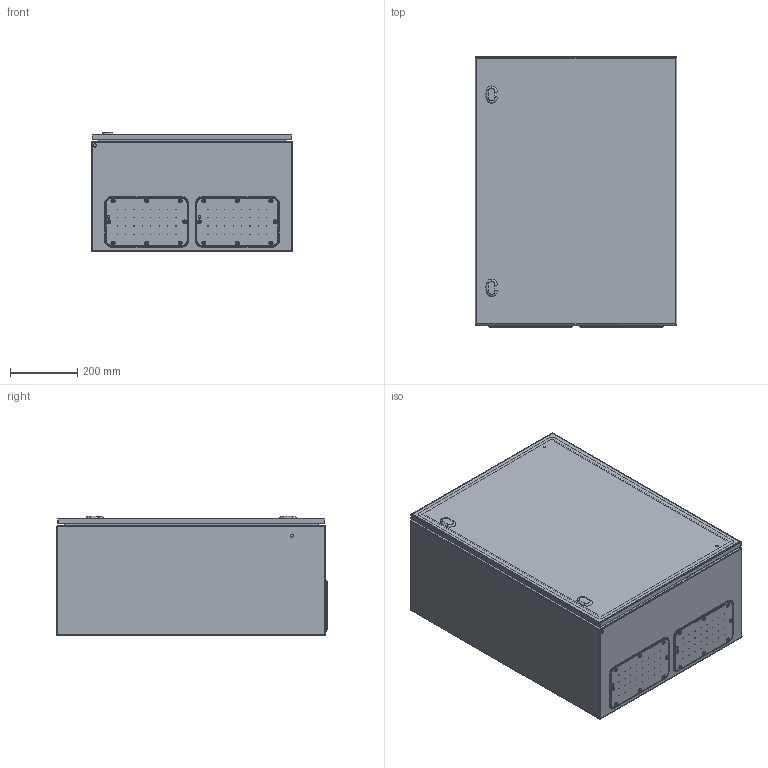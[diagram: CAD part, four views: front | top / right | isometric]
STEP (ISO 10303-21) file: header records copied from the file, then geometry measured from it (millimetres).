
FILE_DESCRIPTION (( 'STEP AP203' ), '1' );
FILE_NAME ('0600x0800x0350 dx.step', '2021-09-07T06:41:53', ( '' ), ( '' ), 'SwSTEP 2.0', 'SolidWorks 2021', '' );
FILE_SCHEMA (( 'CONFIG_CONTROL_DESIGN' ));
Length unit declared in the file: millimetre
Products named in the file (7): AR_ECOR_montaggio_porta_singola_0600x0800; AR_ECOR_flangia IC_03; AR_ECOR_porta_singola_0600x0800; AR_ECOR_Piastra_17; AR_ECOR_chiusura_std_STD; AR_ECOR_involucro_0600x0800x0350; 0600x0800x0350 dx
Assembly tree (8 placements, depth 3):
  0600x0800x0350 dx
    AR_ECOR_involucro_0600x0800x0350
    AR_ECOR_montaggio_porta_singola_0600x0800
      AR_ECOR_porta_singola_0600x0800
      AR_ECOR_chiusura_std_STD  x2
    AR_ECOR_flangia IC_03  x2
    AR_ECOR_Piastra_17
Bounding box: 600 x 804 x 355 mm (x, y, z)
Volume: 4193511.1 mm3; surface area: 5048316.3 mm2
Topology: 7 solids, 7 shells, 1067 faces, 2629 edges, 1654 vertices
Faces by surface type: cylinder 497, plane 316, cone 108, torus 78, bspline 52, sphere 16
Entity records: 25503 total; most frequent: CARTESIAN_POINT 5194, DIRECTION 4329, ORIENTED_EDGE 3900, EDGE_CURVE 1950, AXIS2_PLACEMENT_3D 1706, VERTEX_POINT 1236, EDGE_LOOP 1038, CIRCLE 937
